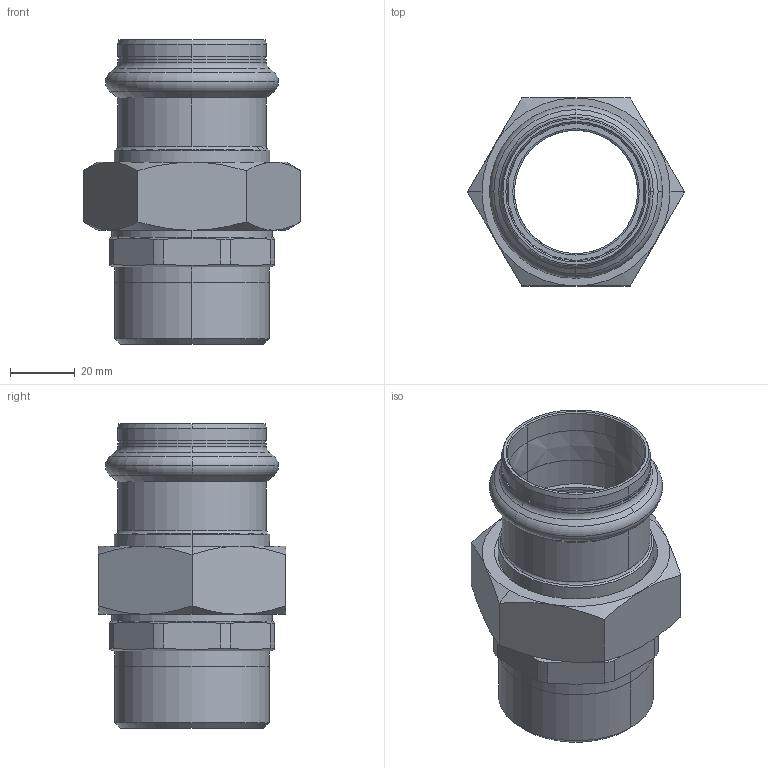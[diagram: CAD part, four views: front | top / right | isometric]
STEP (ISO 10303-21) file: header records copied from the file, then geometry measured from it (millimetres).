
FILE_DESCRIPTION(('CoCreate Modeling STEP Export'),'2;1');
FILE_NAME('8331GVW42112.stp','2013-03-05T12:53:14',(''),(''),'CoCreate Modeling STEP processor for AP214 (Solid Model)','CoCreate Modeling 17.00A 17-Jun-2010 (C) Parametric Technology GmbH','');
FILE_SCHEMA(('AUTOMOTIVE_DESIGN { 1 0 10303 214 1 1 1 1 }'));
Length unit declared in the file: millimetre
Products named in the file (4): DRAAD; MOER; Wartelpuntstuk_C-PR_42x7.1; 8331GVW42112
Assembly tree (3 placements, depth 2):
  8331GVW42112
    Wartelpuntstuk_C-PR_42x7.1
    MOER
    DRAAD
Bounding box: 66.97 x 58 x 94 mm (x, y, z)
Volume: 72472.3 mm3; surface area: 38982.7 mm2
Topology: 3 solids, 3 shells, 136 faces, 329 edges, 203 vertices
Faces by surface type: cone 50, cylinder 48, plane 24, torus 14
Entity records: 4906 total; most frequent: CARTESIAN_POINT 2191, ORIENTED_EDGE 658, DIRECTION 380, EDGE_CURVE 329, VERTEX_POINT 203, EDGE_LOOP 146, AXIS2_PLACEMENT_3D 140, FACE_OUTER_BOUND 136
